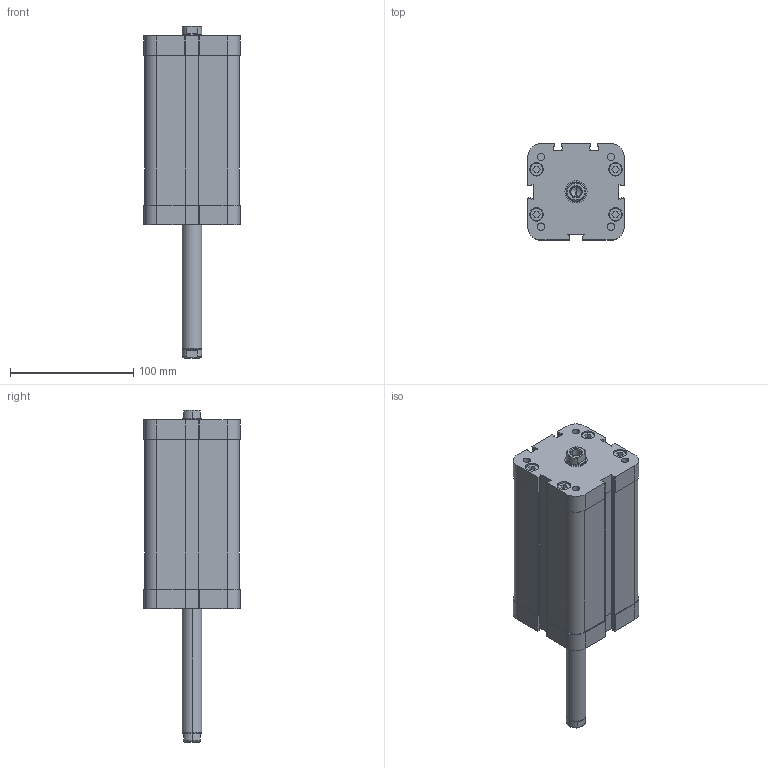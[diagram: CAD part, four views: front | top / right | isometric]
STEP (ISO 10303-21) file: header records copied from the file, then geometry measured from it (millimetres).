
FILE_DESCRIPTION((''),'2;1');
FILE_NAME('P11M40630100.stp','2010-02-26T19:33:57',('B. Petkovic 2010'),('AZ PNEUMATICA S.r.l.'),'Mechanical Desktop 2006','Mechanical Desktop 2006','Via Marco Biagi 6, I-20020 Misinto(MI) Italy, azpneu@tin.it');
FILE_SCHEMA(('CONFIG_CONTROL_DESIGN'));
Length unit declared in the file: millimetre
Products named in the file (2): P11M40630100; COMPACT CILINDRI
Assembly tree (1 placements, depth 2):
  P11M40630100
    COMPACT CILINDRI
Bounding box: 78 x 78 x 269 mm (x, y, z)
Volume: 877528.5 mm3; surface area: 78538 mm2
Topology: 1 solids, 1 shells, 430 faces, 1102 edges, 714 vertices
Faces by surface type: plane 250, cylinder 162, cone 12, torus 6
Entity records: 13292 total; most frequent: CARTESIAN_POINT 2412, DIRECTION 2333, ORIENTED_EDGE 2196, EDGE_CURVE 1098, AXIS2_PLACEMENT_3D 809, VECTOR 715, LINE 715, VERTEX_POINT 714
